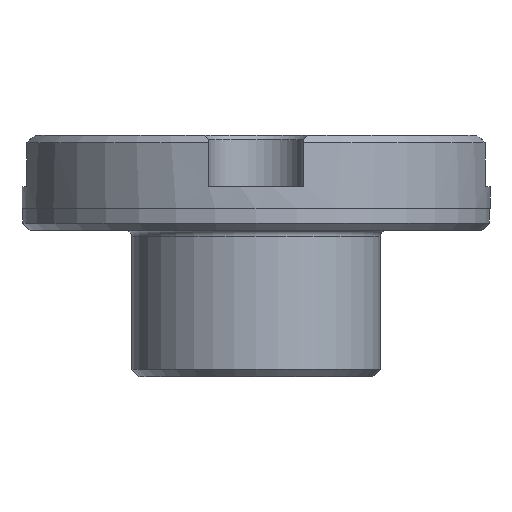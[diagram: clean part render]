
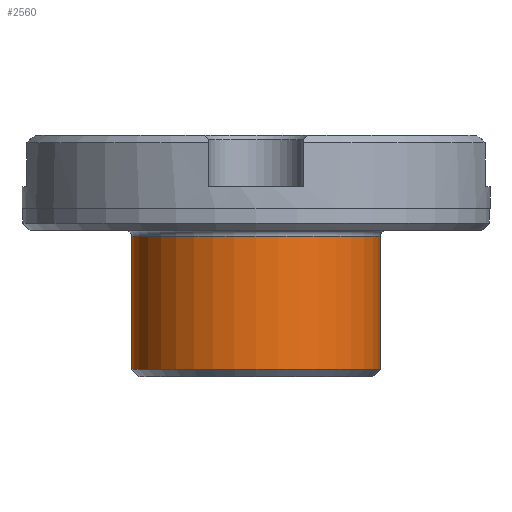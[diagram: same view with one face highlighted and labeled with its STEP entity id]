
A CAD part, left-side view. The second image highlights one B-rep face of the part: STEP entity #2560.
In plain terms, the highlighted cylindrical face has radius 8.5 mm (diameter 17 mm), a partial arc.
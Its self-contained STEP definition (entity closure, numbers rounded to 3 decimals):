
#18 = AXIS2_PLACEMENT_3D ( 'NONE', #1812, #2443, #3015 ) ;
#31 = CYLINDRICAL_SURFACE ( 'NONE', #18, 8.5 ) ;
#38 = DIRECTION ( 'NONE',  ( 0., 0., 1. ) ) ;
#172 = CARTESIAN_POINT ( 'NONE',  ( 0., 0., -0.4 ) ) ;
#405 = AXIS2_PLACEMENT_3D ( 'NONE', #2390, #2050, #3270 ) ;
#594 = CARTESIAN_POINT ( 'NONE',  ( 0., 8.5, -0.4 ) ) ;
#687 = EDGE_CURVE ( 'NONE', #1295, #885, #3876, .T. ) ;
#885 = VERTEX_POINT ( 'NONE', #594 ) ;
#1017 = LINE ( 'NONE', #3422, #1732 ) ;
#1046 = DIRECTION ( 'NONE',  ( 0., 1., 0. ) ) ;
#1140 = VERTEX_POINT ( 'NONE', #3918 ) ;
#1261 = LINE ( 'NONE', #1892, #2675 ) ;
#1295 = VERTEX_POINT ( 'NONE', #3378 ) ;
#1732 = VECTOR ( 'NONE', #3480, 1000. ) ;
#1812 = CARTESIAN_POINT ( 'NONE',  ( 0., 0., -10. ) ) ;
#1831 = ORIENTED_EDGE ( 'NONE', *, *, #3275, .F. ) ;
#1850 = EDGE_LOOP ( 'NONE', ( #1831, #3446, #2210, #2971 ) ) ;
#1869 = FACE_OUTER_BOUND ( 'NONE', #1850, .T. ) ;
#1888 = VERTEX_POINT ( 'NONE', #2684 ) ;
#1892 = CARTESIAN_POINT ( 'NONE',  ( 0., 8.5, -10. ) ) ;
#1957 = EDGE_CURVE ( 'NONE', #1888, #1140, #3820, .T. ) ;
#2050 = DIRECTION ( 'NONE',  ( 0., 0., 1. ) ) ;
#2093 = AXIS2_PLACEMENT_3D ( 'NONE', #172, #2858, #1046 ) ;
#2210 = ORIENTED_EDGE ( 'NONE', *, *, #3837, .T. ) ;
#2390 = CARTESIAN_POINT ( 'NONE',  ( 0., 0., -9.5 ) ) ;
#2443 = DIRECTION ( 'NONE',  ( 0., 0., 1. ) ) ;
#2560 = ADVANCED_FACE ( 'NONE', ( #1869 ), #31, .T. ) ;
#2675 = VECTOR ( 'NONE', #38, 1000. ) ;
#2684 = CARTESIAN_POINT ( 'NONE',  ( 0., 8.5, -9.5 ) ) ;
#2858 = DIRECTION ( 'NONE',  ( 0., 0., -1. ) ) ;
#2971 = ORIENTED_EDGE ( 'NONE', *, *, #687, .T. ) ;
#3015 = DIRECTION ( 'NONE',  ( 0., -1., 0. ) ) ;
#3270 = DIRECTION ( 'NONE',  ( 0., 1., 0. ) ) ;
#3275 = EDGE_CURVE ( 'NONE', #1888, #885, #1261, .T. ) ;
#3378 = CARTESIAN_POINT ( 'NONE',  ( 0., -8.5, -0.4 ) ) ;
#3422 = CARTESIAN_POINT ( 'NONE',  ( 0., -8.5, -10. ) ) ;
#3446 = ORIENTED_EDGE ( 'NONE', *, *, #1957, .T. ) ;
#3480 = DIRECTION ( 'NONE',  ( 0., 0., 1. ) ) ;
#3820 = CIRCLE ( 'NONE', #405, 8.5 ) ;
#3837 = EDGE_CURVE ( 'NONE', #1140, #1295, #1017, .T. ) ;
#3876 = CIRCLE ( 'NONE', #2093, 8.5 ) ;
#3918 = CARTESIAN_POINT ( 'NONE',  ( 0., -8.5, -9.5 ) ) ;
